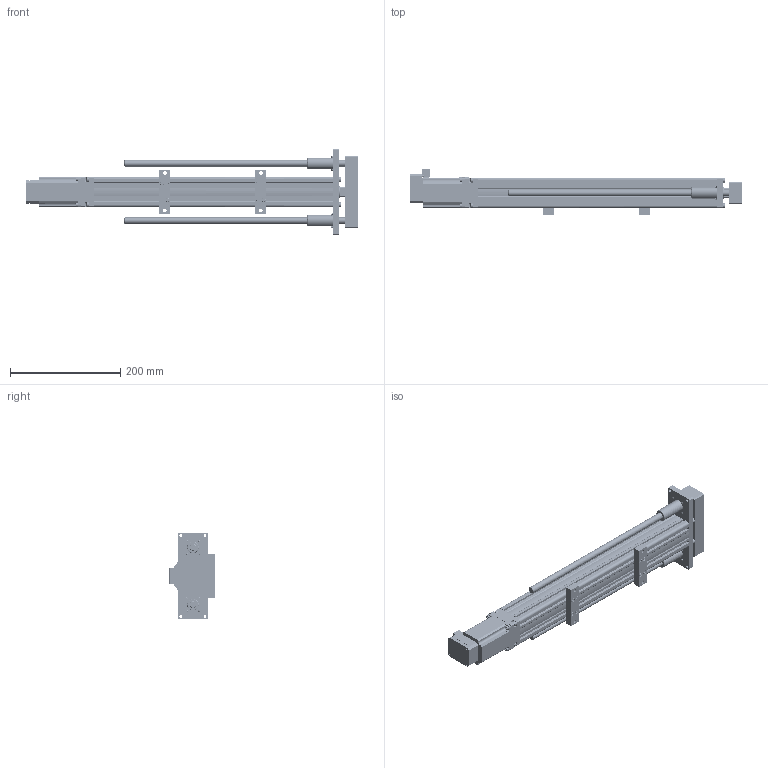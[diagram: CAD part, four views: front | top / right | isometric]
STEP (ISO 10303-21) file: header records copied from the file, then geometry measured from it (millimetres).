
FILE_DESCRIPTION (( 'STEP AP203' ), '1' );
FILE_NAME ('BSU-55-300.STEP', '2012-05-25T19:31:18', ( 'render' ), ( '' ), 'SwSTEP 2.0', 'SolidWorks 2011', '' );
FILE_SCHEMA (( 'CONFIG_CONTROL_DESIGN' ));
Products named in the file (1): BSU-55-300
Bounding box: 602.8 x 82.31 x 157 mm (x, y, z)
Volume: 1828656.6 mm3; surface area: 379559.2 mm2
Topology: 39 solids, 39 shells, 3967 faces, 10524 edges, 6726 vertices
Faces by surface type: cylinder 2135, plane 1219, cone 543, bspline 70
Entity records: 160111 total; most frequent: CARTESIAN_POINT 69770, ORIENTED_EDGE 21000, DIRECTION 16928, EDGE_CURVE 10500, VERTEX_POINT 6726, AXIS2_PLACEMENT_3D 5892, LINE 5144, VECTOR 5144
